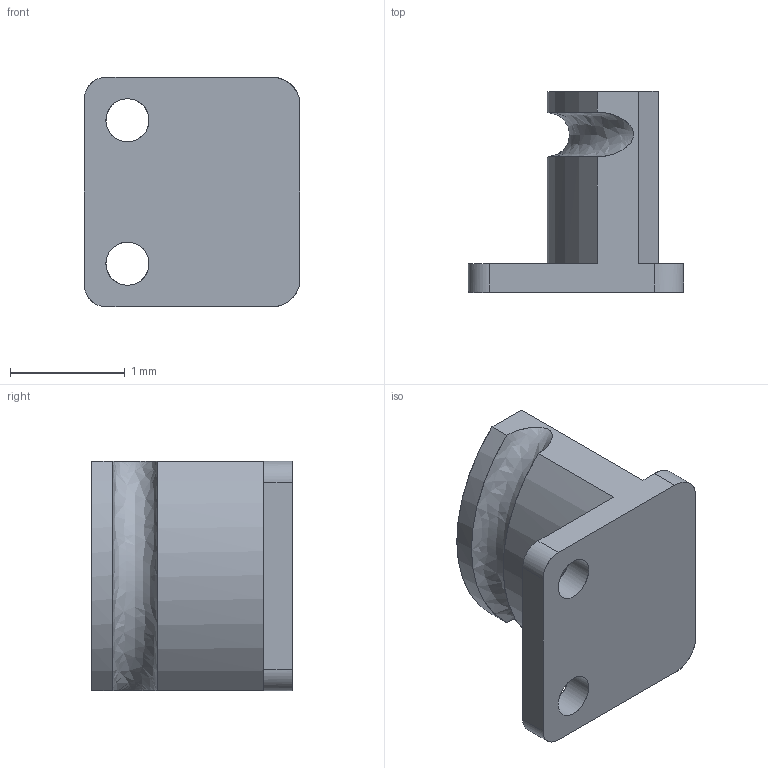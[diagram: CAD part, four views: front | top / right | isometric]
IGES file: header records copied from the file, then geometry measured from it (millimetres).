
Start section:  Autodesk DirectConnect version 7.0.27.0 ---- IGES version 5.3
Global section: file name: C:\Users\Nick\Desktop\LPCU-2000\LPCU-2000.igs; native system: Autodesk DirectConnect 7.0.27.0; preprocessor: 7.0.27.0; author: Nick; organization: Unknown; date: 20150617.165745; units: millimetre
Bounding box: 1.88 x 1.75 x 2 mm (x, y, z)
Surface area: 17.8 mm2 (no closed solid volume)
Topology: 0 solids, 0 shells, 22 faces, 157 edges, 157 vertices
Faces by surface type: bspline 22
